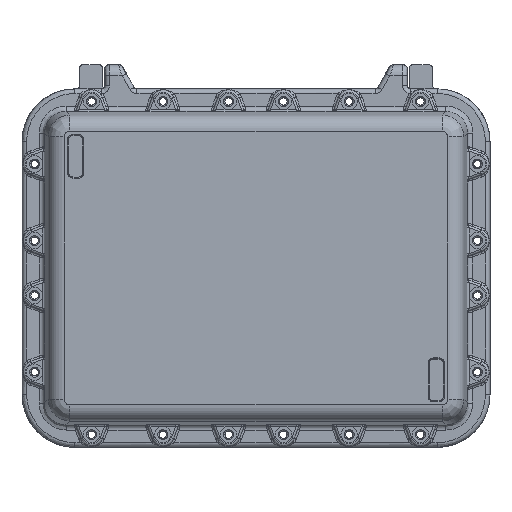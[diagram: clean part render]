
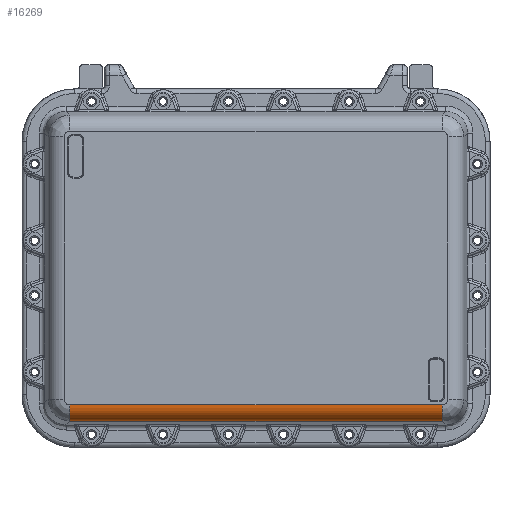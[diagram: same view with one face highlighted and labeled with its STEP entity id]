
A CAD part, front view. The second image highlights one B-rep face of the part: STEP entity #16269.
In plain terms, the highlighted cylindrical face has radius 15 mm (diameter 30 mm), a partial arc.
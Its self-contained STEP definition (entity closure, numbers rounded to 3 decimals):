
#16269=ADVANCED_FACE('',(#66748),#66750,.T.);
#66748=FACE_BOUND('',#66749,.T.);
#66749=EDGE_LOOP('',(#82432,#82433,#82434,#82435));
#66750=CYLINDRICAL_SURFACE('',#66751,15.);
#66751=AXIS2_PLACEMENT_3D('',#66752,#66753,#66754);
#66752=CARTESIAN_POINT('',(227.74,33.,-124.849));
#66753=DIRECTION('',(-1.,0.,0.));
#66754=DIRECTION('',(0.,1.,0.));
#82432=ORIENTED_EDGE('',*,*,#88524,.T.);
#82433=ORIENTED_EDGE('',*,*,#88525,.T.);
#82434=ORIENTED_EDGE('',*,*,#87785,.F.);
#82435=ORIENTED_EDGE('',*,*,#88526,.F.);
#87785=EDGE_CURVE('',#95231,#95232,#95233,.T.);
#88524=EDGE_CURVE('',#96378,#96383,#96384,.T.);
#88525=EDGE_CURVE('',#96383,#95232,#96385,.T.);
#88526=EDGE_CURVE('',#96378,#95231,#96386,.F.);
#95231=VERTEX_POINT('',#156210);
#95232=VERTEX_POINT('',#156211);
#95233=LINE('',#156212,#156213);
#96378=VERTEX_POINT('',#162791);
#96383=VERTEX_POINT('',#162943);
#96384=LINE('',#162944,#162945);
#96385=CIRCLE('',#162947,15.);
#96386=CIRCLE('',#162951,15.);
#156210=CARTESIAN_POINT('',(169.925,48.,-124.849));
#156211=CARTESIAN_POINT('',(-169.925,48.,-124.849));
#156212=CARTESIAN_POINT('',(169.925,48.,-124.849));
#156213=VECTOR('',#156214,1.);
#156214=DIRECTION('',(-1.,0.,0.));
#162791=CARTESIAN_POINT('',(169.925,35.605,-139.621));
#162943=CARTESIAN_POINT('',(-169.925,35.605,-139.621));
#162944=CARTESIAN_POINT('',(169.925,35.605,-139.621));
#162945=VECTOR('',#162946,1.);
#162946=DIRECTION('',(-1.,0.,0.));
#162947=AXIS2_PLACEMENT_3D('',#162948,#162949,#162950);
#162948=CARTESIAN_POINT('',(-169.925,33.,-124.849));
#162949=DIRECTION('',(1.,0.,0.));
#162950=DIRECTION('',(0.,0.174,-0.985));
#162951=AXIS2_PLACEMENT_3D('',#162952,#162953,#162954);
#162952=CARTESIAN_POINT('',(169.925,33.,-124.849));
#162953=DIRECTION('',(-1.,0.,0.));
#162954=DIRECTION('',(0.,1.,0.));
